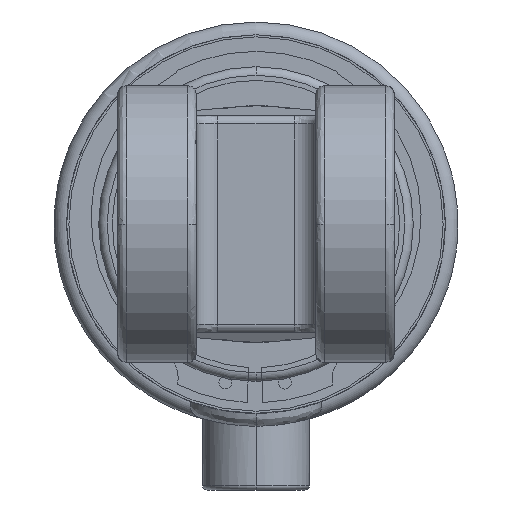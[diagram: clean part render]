
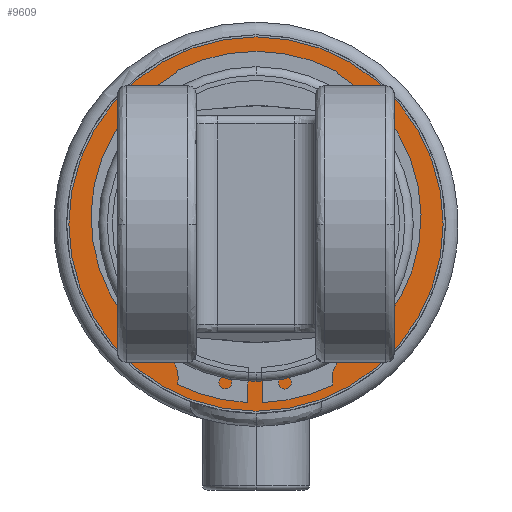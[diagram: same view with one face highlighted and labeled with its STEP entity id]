
A CAD part, left-side view. The second image highlights one B-rep face of the part: STEP entity #9609.
In plain terms, the highlighted planar face has unit normal (-1, 0, 0).
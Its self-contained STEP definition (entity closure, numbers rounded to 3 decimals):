
#206 = DIRECTION ( 'NONE',  ( -1., 0., 0. ) ) ;
#252 = CARTESIAN_POINT ( 'NONE',  ( -621.005, 0., 0. ) ) ;
#460 = EDGE_LOOP ( 'NONE', ( #10195, #11652 ) ) ;
#485 = DIRECTION ( 'NONE',  ( 0., 0., 1. ) ) ;
#744 = DIRECTION ( 'NONE',  ( -1., 0., 0. ) ) ;
#845 = PLANE ( 'NONE',  #3983 ) ;
#1050 = VERTEX_POINT ( 'NONE', #5385 ) ;
#1171 = CIRCLE ( 'NONE', #6196, 36.95 ) ;
#1220 = DIRECTION ( 'NONE',  ( 0., 0., 1. ) ) ;
#1322 = FACE_BOUND ( 'NONE', #8058, .T. ) ;
#2837 = CARTESIAN_POINT ( 'NONE',  ( -621.005, 0., -43.95 ) ) ;
#2931 = CARTESIAN_POINT ( 'NONE',  ( -621.005, 0., 0. ) ) ;
#3656 = CIRCLE ( 'NONE', #9422, 36.95 ) ;
#3764 = FACE_OUTER_BOUND ( 'NONE', #460, .T. ) ;
#3825 = DIRECTION ( 'NONE',  ( 0., 0., 1. ) ) ;
#3983 = AXIS2_PLACEMENT_3D ( 'NONE', #4794, #206, #6578 ) ;
#4071 = EDGE_CURVE ( 'NONE', #9315, #6129, #6430, .T. ) ;
#4583 = AXIS2_PLACEMENT_3D ( 'NONE', #252, #6615, #1220 ) ;
#4794 = CARTESIAN_POINT ( 'NONE',  ( -621.005, 0., -43.95 ) ) ;
#5122 = VERTEX_POINT ( 'NONE', #10773 ) ;
#5385 = CARTESIAN_POINT ( 'NONE',  ( -621.005, 0., -36.95 ) ) ;
#5939 = DIRECTION ( 'NONE',  ( -1., 0., 0. ) ) ;
#6129 = VERTEX_POINT ( 'NONE', #2837 ) ;
#6175 = CARTESIAN_POINT ( 'NONE',  ( -621.005, 0., 0. ) ) ;
#6196 = AXIS2_PLACEMENT_3D ( 'NONE', #2931, #9231, #3825 ) ;
#6430 = CIRCLE ( 'NONE', #11698, 43.95 ) ;
#6578 = DIRECTION ( 'NONE',  ( 0., 0., 1. ) ) ;
#6615 = DIRECTION ( 'NONE',  ( -1., 0., 0. ) ) ;
#6633 = EDGE_CURVE ( 'NONE', #1050, #5122, #1171, .T. ) ;
#7085 = DIRECTION ( 'NONE',  ( 0., 0., 1. ) ) ;
#7235 = EDGE_CURVE ( 'NONE', #5122, #1050, #3656, .T. ) ;
#8058 = EDGE_LOOP ( 'NONE', ( #11054, #9835 ) ) ;
#9231 = DIRECTION ( 'NONE',  ( -1., 0., 0. ) ) ;
#9315 = VERTEX_POINT ( 'NONE', #9727 ) ;
#9422 = AXIS2_PLACEMENT_3D ( 'NONE', #6175, #744, #7085 ) ;
#9609 = ADVANCED_FACE ( 'NONE', ( #3764, #1322 ), #845, .T. ) ;
#9653 = EDGE_CURVE ( 'NONE', #6129, #9315, #10699, .T. ) ;
#9727 = CARTESIAN_POINT ( 'NONE',  ( -621.005, 0., 43.95 ) ) ;
#9835 = ORIENTED_EDGE ( 'NONE', *, *, #6633, .F. ) ;
#10195 = ORIENTED_EDGE ( 'NONE', *, *, #4071, .T. ) ;
#10699 = CIRCLE ( 'NONE', #4583, 43.95 ) ;
#10773 = CARTESIAN_POINT ( 'NONE',  ( -621.005, 0., 36.95 ) ) ;
#11054 = ORIENTED_EDGE ( 'NONE', *, *, #7235, .F. ) ;
#11409 = CARTESIAN_POINT ( 'NONE',  ( -621.005, 0., 0. ) ) ;
#11652 = ORIENTED_EDGE ( 'NONE', *, *, #9653, .T. ) ;
#11698 = AXIS2_PLACEMENT_3D ( 'NONE', #11409, #5939, #485 ) ;
